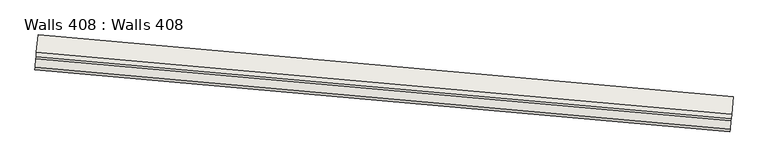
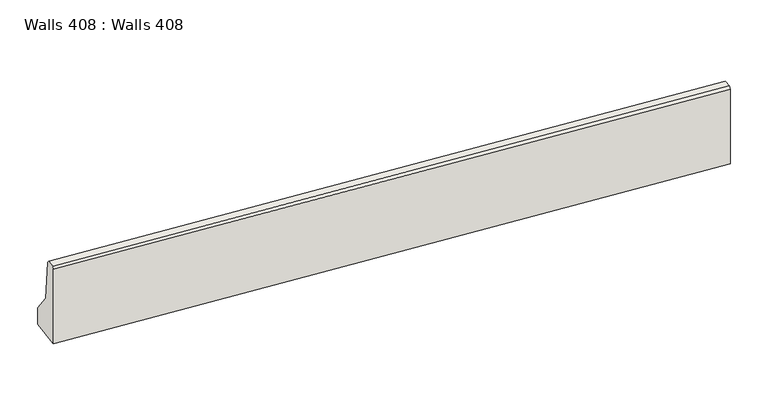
"""IFC4 building model written with IfcOpenShell, lengths in millimetres: wall geometry, Walls 408 : Walls 408."""

from ifc_helpers import new_model, si_unit, frame, origin, place, context, project, spatial, polyline, outline, extrude, source, transform, mapped, element, save


def walls_408_walls_408_7ee5522f(model_context):
    return source(origin(), model_context, "Body", "SweptSolid", [
        extrude(outline(polyline([(638180.0, 400.0), (638430.0, 200.0), (638935.0, 150.0), (638960.0, 125.0), (638960.0, 24.9999999), (638935.0, 0.0), (637960.0, 0.0), (637960.0, 400.0), (638180.0, 400.0)])), frame((-531237.2005726, -431753.2328474, 0.0), z_axis=(-0.9960550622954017, 0.08873732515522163, 0.0), x_axis=(0.0, 0.0, 1.0)), (0.0, 0.0, 1.0), 7999.9999999),
    ])


if __name__ == "__main__":
    model = new_model("IFC4")
    model_context = context("Model", 3, world=origin())
    ifc_project = project(units=[si_unit("LENGTHUNIT", "METRE", prefix="MILLI")], contexts=[model_context])
    site = spatial("IfcSite", under=ifc_project)
    building = spatial("IfcBuilding", under=site)
    placement = place(None, origin())
    walls_408_walls_408_shape = walls_408_walls_408_7ee5522f(model_context)
    element("IfcWall", 1, ObjectType="Walls 408 : Walls 408", at=placement, inside=building, context=model_context, shape_type="MappedRepresentation", body=[
        mapped(walls_408_walls_408_shape, transform((0.0, 0.0, 0.0), x_axis=(1.0, 0.0, 0.0), y_axis=(0.0, 1.0, 0.0), z_axis=(0.0, 0.0, 1.0))),
    ])
    save(model, "model.ifc")
